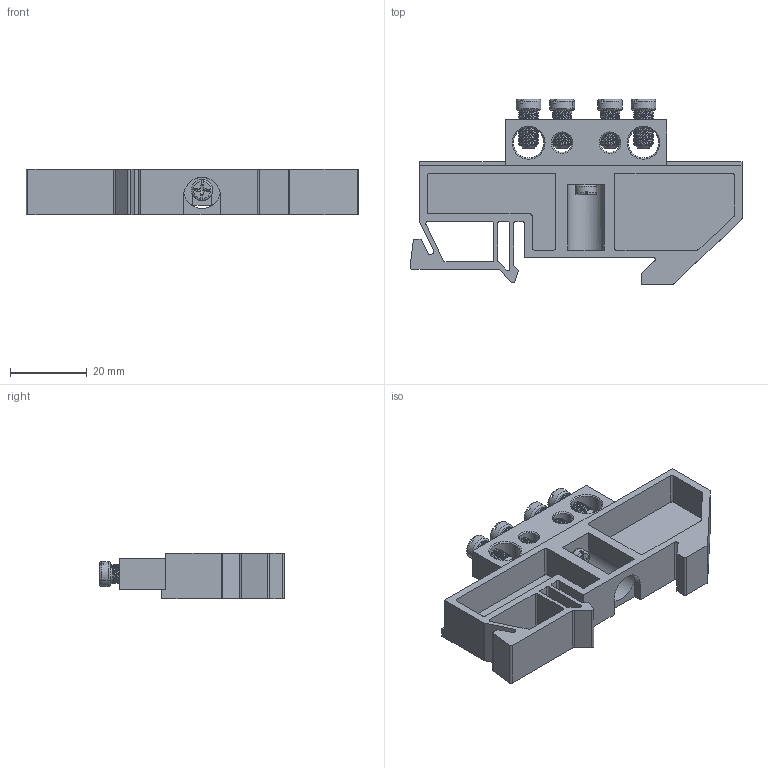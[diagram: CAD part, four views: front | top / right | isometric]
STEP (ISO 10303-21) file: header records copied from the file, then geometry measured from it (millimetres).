
FILE_DESCRIPTION (( 'STEP AP214' ), '1' );
FILE_NAME ('Øèíà íóëåâàÿ ñ DIN èçîëÿòîðîì 8õ12 4.STEP', '2020-02-06T11:35:32', ( '' ), ( '' ), 'SwSTEP 2.0', 'SolidWorks 2018', '' );
FILE_SCHEMA (( 'AUTOMOTIVE_DESIGN' ));
Length unit declared in the file: millimetre
Products named in the file (6): Âèíò ì4; Øèíà íóëåâàÿ ñ êðåïåæíûì îòâåðñòèåì ïî öåíòðó 8õ12 4-1_1; Âèíò ì5; Øèíà 8õ12 4 1; DIN èçîëÿòîð; Øèíà íóëåâàÿ ñ DIN èçîëÿòîðîì 8õ12 4
Assembly tree (8 placements, depth 3):
  Øèíà íóëåâàÿ ñ DIN èçîëÿòîðîì 8õ12 4
    DIN èçîëÿòîð
    Øèíà íóëåâàÿ ñ êðåïåæíûì îòâåðñòèåì ïî öåíòðó 8õ12 4-1_1
      Øèíà 8õ12 4 1
      Âèíò ì5  x4
    Âèíò ì4
Bounding box: 86.63 x 48.3 x 12 mm (x, y, z)
Volume: 15473.2 mm3; surface area: 14385.1 mm2
Topology: 7 solids, 7 shells, 552 faces, 1525 edges, 974 vertices
Faces by surface type: cylinder 214, plane 211, cone 65, torus 36, bspline 16, sphere 10
Entity records: 14548 total; most frequent: CARTESIAN_POINT 6226, ORIENTED_EDGE 1764, DIRECTION 1607, EDGE_CURVE 882, AXIS2_PLACEMENT_3D 579, VERTEX_POINT 566, VECTOR 449, LINE 449
